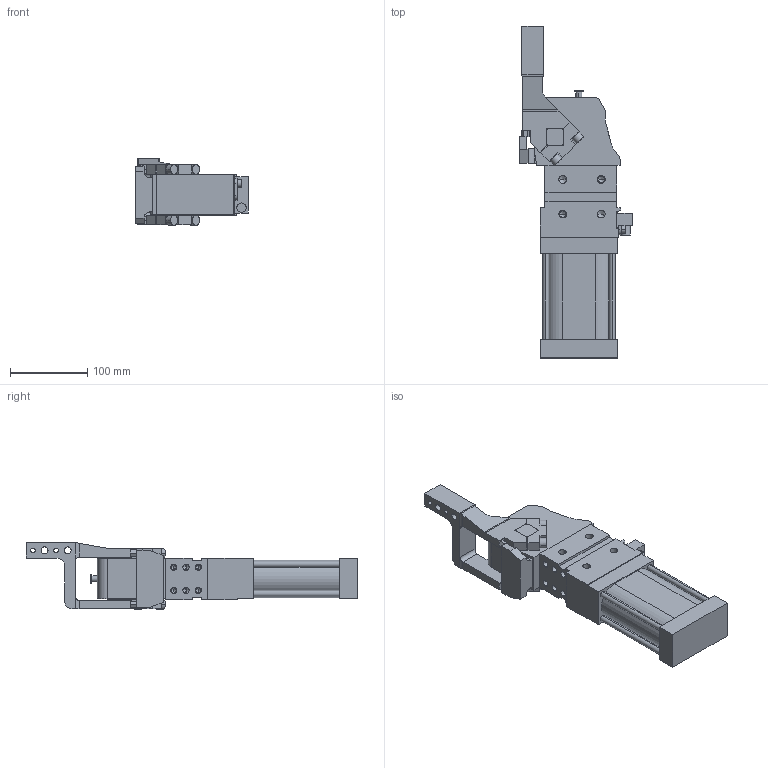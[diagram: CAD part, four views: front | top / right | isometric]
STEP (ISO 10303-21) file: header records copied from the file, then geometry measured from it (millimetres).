
FILE_DESCRIPTION (( 'STEP AP214' ), '1' );
FILE_NAME ('cpl63th1si1g_107.STEP', '2023-01-26T10:37:04', ( '' ), ( '' ), 'SwSTEP 2.0', 'SolidWorks 2022', '' );
FILE_SCHEMA (( 'AUTOMOTIVE_DESIGN' ));
Length unit declared in the file: millimetre
Products named in the file (4): meccanica_cpl_63_tassello_esterno; blocchetto_VEP_0; cpl63th1si1g_107; leva_h1s_cpl63t
Assembly tree (3 placements, depth 2):
  cpl63th1si1g_107
    meccanica_cpl_63_tassello_esterno
    blocchetto_VEP_0
    leva_h1s_cpl63t
Bounding box: 146.5 x 430.5 x 86.5 mm (x, y, z)
Volume: 1817850.2 mm3; surface area: 195766 mm2
Topology: 3 solids, 3 shells, 429 faces, 1132 edges, 701 vertices
Faces by surface type: plane 231, cylinder 148, cone 50
Entity records: 14490 total; most frequent: CARTESIAN_POINT 2322, DIRECTION 2266, ORIENTED_EDGE 2172, EDGE_CURVE 1086, AXIS2_PLACEMENT_3D 759, VECTOR 748, LINE 748, VERTEX_POINT 701
